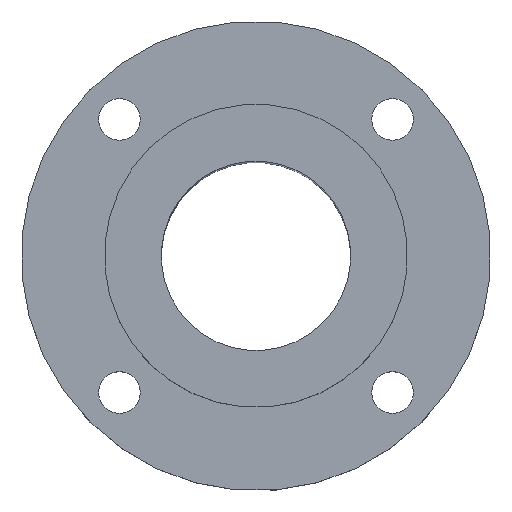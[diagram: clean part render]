
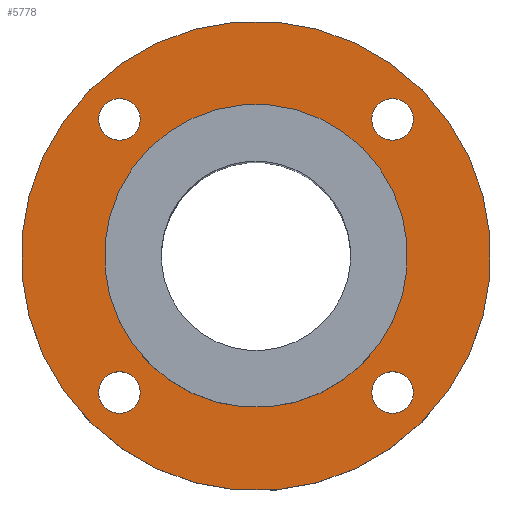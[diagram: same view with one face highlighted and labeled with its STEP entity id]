
A CAD part, top view. The second image highlights one B-rep face of the part: STEP entity #5778.
In plain terms, the highlighted planar face has unit normal (0, 0, 1).
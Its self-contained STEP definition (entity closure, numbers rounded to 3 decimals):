
#112=CIRCLE('',#6142,20.);
#116=CIRCLE('',#6150,31.);
#117=CIRCLE('',#6152,2.75);
#118=CIRCLE('',#6153,2.75);
#119=CIRCLE('',#6154,2.75);
#120=CIRCLE('',#6155,2.75);
#524=ORIENTED_EDGE('',*,*,#2184,.F.);
#525=ORIENTED_EDGE('',*,*,#2185,.F.);
#526=ORIENTED_EDGE('',*,*,#2186,.F.);
#527=ORIENTED_EDGE('',*,*,#2187,.F.);
#528=ORIENTED_EDGE('',*,*,#2179,.T.);
#529=ORIENTED_EDGE('',*,*,#2183,.T.);
#2179=EDGE_CURVE('',#3012,#3012,#112,.F.);
#2183=EDGE_CURVE('',#3016,#3016,#116,.T.);
#2184=EDGE_CURVE('',#3017,#3017,#117,.T.);
#2185=EDGE_CURVE('',#3018,#3018,#118,.T.);
#2186=EDGE_CURVE('',#3019,#3019,#119,.T.);
#2187=EDGE_CURVE('',#3020,#3020,#120,.T.);
#3012=VERTEX_POINT('',#9159);
#3016=VERTEX_POINT('',#9171);
#3017=VERTEX_POINT('',#9174);
#3018=VERTEX_POINT('',#9176);
#3019=VERTEX_POINT('',#9178);
#3020=VERTEX_POINT('',#9180);
#4739=EDGE_LOOP('',(#524));
#4740=EDGE_LOOP('',(#525));
#4741=EDGE_LOOP('',(#526));
#4742=EDGE_LOOP('',(#527));
#4743=EDGE_LOOP('',(#528));
#4744=EDGE_LOOP('',(#529));
#5154=FACE_BOUND('',#4739,.T.);
#5155=FACE_BOUND('',#4740,.T.);
#5156=FACE_BOUND('',#4741,.T.);
#5157=FACE_BOUND('',#4742,.T.);
#5158=FACE_BOUND('',#4743,.T.);
#5159=FACE_BOUND('',#4744,.T.);
#5511=PLANE('',#6151);
#5778=ADVANCED_FACE('',(#5154,#5155,#5156,#5157,#5158,#5159),#5511,.T.);
#6142=AXIS2_PLACEMENT_3D('',#9158,#6674,#6675);
#6150=AXIS2_PLACEMENT_3D('',#9170,#6690,#6691);
#6151=AXIS2_PLACEMENT_3D('',#9172,#6692,#6693);
#6152=AXIS2_PLACEMENT_3D('',#9173,#6694,#6695);
#6153=AXIS2_PLACEMENT_3D('',#9175,#6696,#6697);
#6154=AXIS2_PLACEMENT_3D('',#9177,#6698,#6699);
#6155=AXIS2_PLACEMENT_3D('',#9179,#6700,#6701);
#6674=DIRECTION('',(0.,0.,1.));
#6675=DIRECTION('',(0.707,-0.707,0.));
#6690=DIRECTION('',(0.,0.,1.));
#6691=DIRECTION('',(0.707,-0.707,0.));
#6692=DIRECTION('',(0.,0.,1.));
#6693=DIRECTION('',(0.707,-0.707,0.));
#6694=DIRECTION('',(0.,0.,1.));
#6695=DIRECTION('',(0.707,-0.707,0.));
#6696=DIRECTION('',(0.,0.,1.));
#6697=DIRECTION('',(0.707,-0.707,0.));
#6698=DIRECTION('',(0.,0.,1.));
#6699=DIRECTION('',(0.707,-0.707,0.));
#6700=DIRECTION('',(0.,0.,1.));
#6701=DIRECTION('',(0.707,-0.707,0.));
#9158=CARTESIAN_POINT('',(0.,0.,0.));
#9159=CARTESIAN_POINT('',(14.142,-14.142,0.));
#9170=CARTESIAN_POINT('',(0.,0.,0.));
#9171=CARTESIAN_POINT('',(21.92,-21.92,0.));
#9172=CARTESIAN_POINT('',(0.,0.,0.));
#9173=CARTESIAN_POINT('',(18.031,18.031,0.));
#9174=CARTESIAN_POINT('',(19.976,16.087,0.));
#9175=CARTESIAN_POINT('',(-18.031,18.031,0.));
#9176=CARTESIAN_POINT('',(-16.087,16.087,0.));
#9177=CARTESIAN_POINT('',(-18.031,-18.031,0.));
#9178=CARTESIAN_POINT('',(-16.087,-19.976,0.));
#9179=CARTESIAN_POINT('',(18.031,-18.031,0.));
#9180=CARTESIAN_POINT('',(19.976,-19.976,0.));
